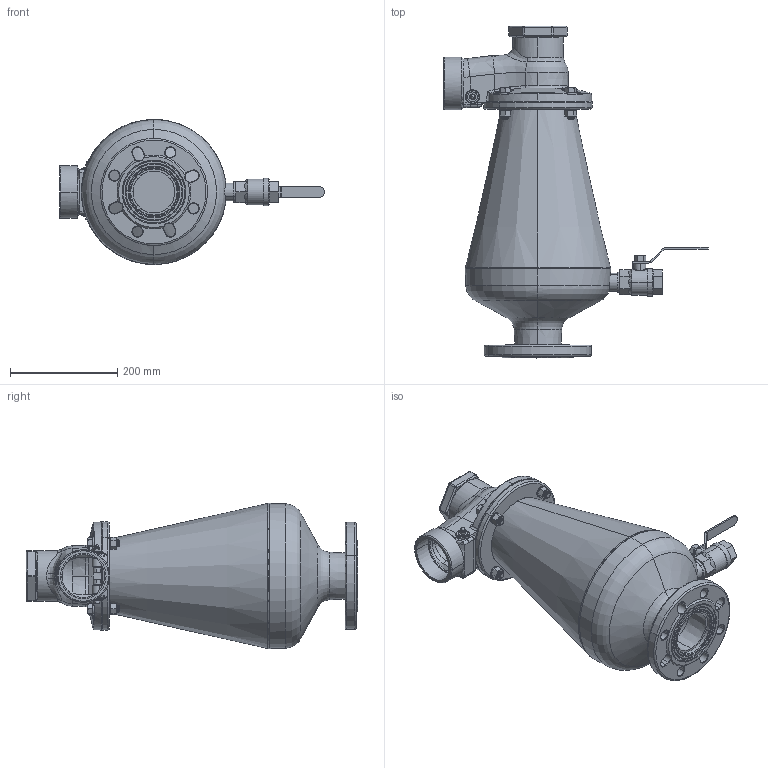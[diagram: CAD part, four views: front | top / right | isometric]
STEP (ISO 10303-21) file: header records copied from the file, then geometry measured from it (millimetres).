
FILE_DESCRIPTION (( 'STEP AP203' ), '1' );
FILE_NAME ('New D-023_3.STEP', '2014-01-27T09:45:49', ( '' ), ( '' ), 'SwSTEP 2.0', 'SolidWorks 2012', '' );
FILE_SCHEMA (( 'CONFIG_CONTROL_DESIGN' ));
Length unit declared in the file: millimetre
Products named in the file (1): New D-023_3
Bounding box: 493.96 x 619 x 271.14 mm (x, y, z)
Surface area: 822391.8 mm2 (no closed solid volume)
Topology: 0 solids, 58 shells, 732 faces, 1959 edges, 1229 vertices
Faces by surface type: cone 184, plane 182, cylinder 166, torus 103, bspline 79, sphere 18
Entity records: 30286 total; most frequent: CARTESIAN_POINT 12960, DIRECTION 3616, ORIENTED_EDGE 3428, EDGE_CURVE 1937, AXIS2_PLACEMENT_3D 1528, VERTEX_POINT 1227, CIRCLE 874, EDGE_LOOP 800
